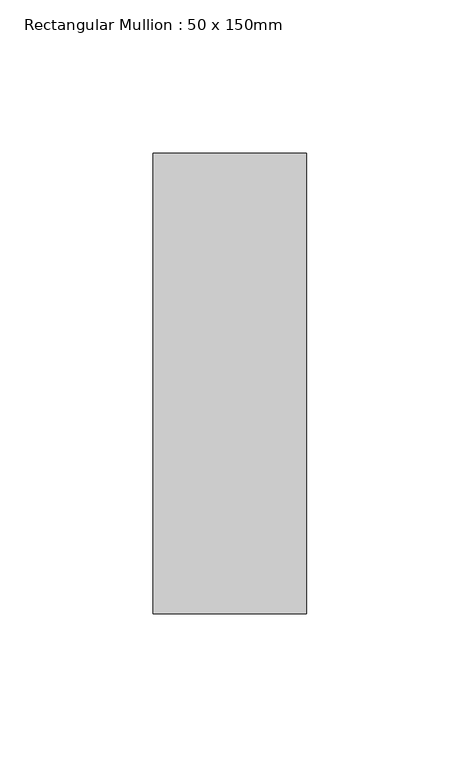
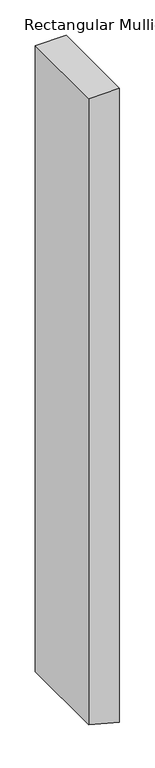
"""IFC4 building model written with IfcOpenShell, lengths in millimetres: member geometry, Rectangular Mullion : 50 x 150mm."""

from ifc_helpers import new_model, si_unit, frame, origin, place, context, project, spatial, polyline, outline, extrude, source, transform, mapped, element, save


def rectangular_mullion_50_x_150mm_7277cebd(model_context):
    return source(origin(), model_context, "Body", "SweptSolid", [
        extrude(outline(polyline([(0.0, 0.0), (0.0, -50.0), (-1076.8194519, -50.0), (-1090.2169115, 0.0), (0.0, 0.0)])), frame((0.0, -75.0, 0.0), z_axis=(0.0, 1.0, 0.0), x_axis=(0.0, 0.0, 1.0)), (0.0, 0.0, 1.0), 150.0),
    ])


if __name__ == "__main__":
    model = new_model("IFC4")
    model_context = context("Model", 3, world=origin())
    ifc_project = project(units=[si_unit("LENGTHUNIT", "METRE", prefix="MILLI")], contexts=[model_context])
    site = spatial("IfcSite", under=ifc_project)
    building = spatial("IfcBuilding", under=site)
    placement = place(None, origin())
    rectangular_mullion_50_x_150mm_shape = rectangular_mullion_50_x_150mm_7277cebd(model_context)
    element("IfcMember", 1, ObjectType="Rectangular Mullion : 50 x 150mm", at=placement, inside=building, context=model_context, shape_type="MappedRepresentation", body=[
        mapped(rectangular_mullion_50_x_150mm_shape, transform((0.0, 0.0, 0.0), x_axis=(1.0, 0.0, 0.0), y_axis=(0.0, 1.0, 0.0), z_axis=(0.0, 0.0, 1.0))),
    ])
    save(model, "model.ifc")
